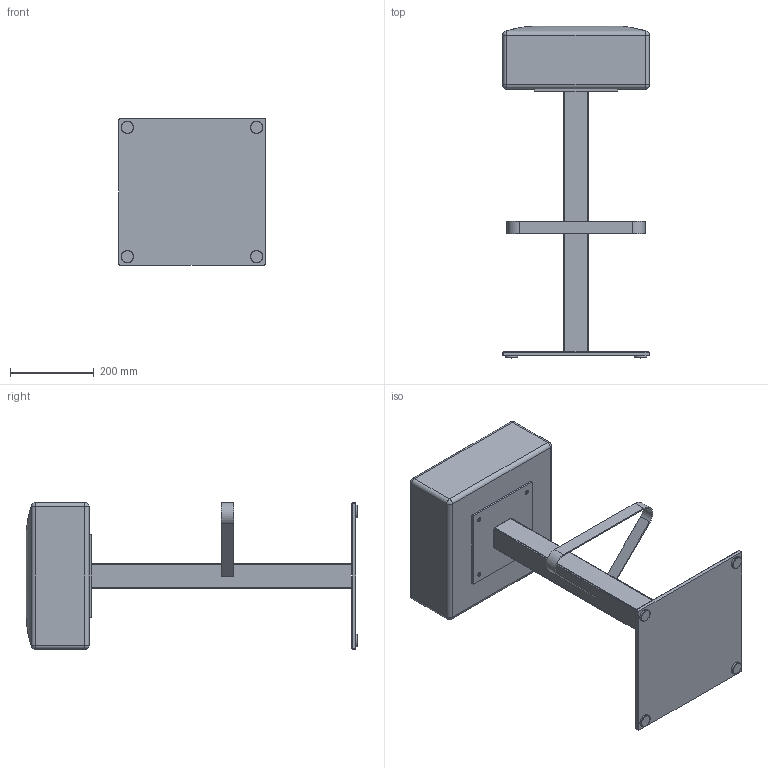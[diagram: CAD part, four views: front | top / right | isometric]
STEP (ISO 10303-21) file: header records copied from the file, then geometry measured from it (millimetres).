
FILE_DESCRIPTION (( 'STEP AP203' ), '1' );
FILE_NAME ('NIZA 013.STEP', '2024-04-12T08:19:40', ( '' ), ( '' ), 'SwSTEP 2.0', 'SolidWorks 2023', '' );
FILE_SCHEMA (( 'CONFIG_CONTROL_DESIGN' ));
Length unit declared in the file: millimetre
Products named in the file (3): NIZA 013; socket countersunk head screw_am_B18.3.5M - 5 x 0.8 x 10 Socket FCHS  -- 10N
Assembly tree (5 placements, depth 2):
  NIZA 013
    NIZA 013
    socket countersunk head screw_am_B18.3.5M - 5 x 0.8 x 10 Socket FCHS  -- 10N  x4
Bounding box: 350 x 790.8 x 350 mm (x, y, z)
Volume: 19509720.6 mm3; surface area: 1109320.5 mm2
Topology: 13 solids, 13 shells, 237 faces, 522 edges, 296 vertices
Faces by surface type: plane 102, cylinder 71, cone 32, torus 16, sphere 12, bspline 4
Entity records: 4719 total; most frequent: DIRECTION 809, CARTESIAN_POINT 806, ORIENTED_EDGE 682, EDGE_CURVE 341, AXIS2_PLACEMENT_3D 314, VERTEX_POINT 203, LINE 181, VECTOR 181
